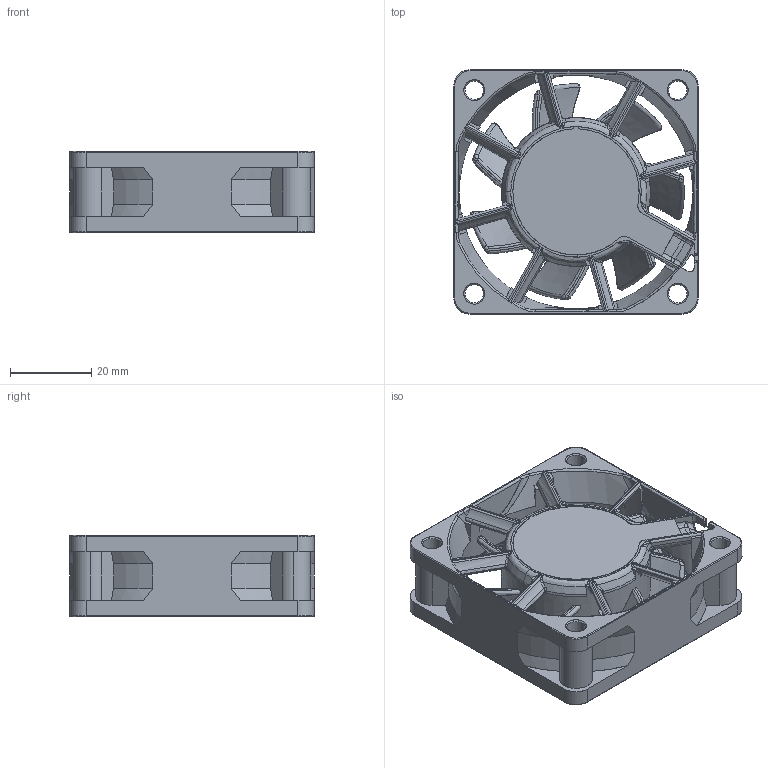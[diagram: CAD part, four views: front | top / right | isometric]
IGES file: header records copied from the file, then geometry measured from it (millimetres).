
Start section: SolidWorks IGES file using analytic representation for surfaces
Bounding box: 60 x 60 x 20 mm (x, y, z)
Surface area: 18570.3 mm2 (no closed solid volume)
Topology: 0 solids, 0 shells, 682 faces, 5982 edges, 5913 vertices
Faces by surface type: bspline 467, revolution 215
